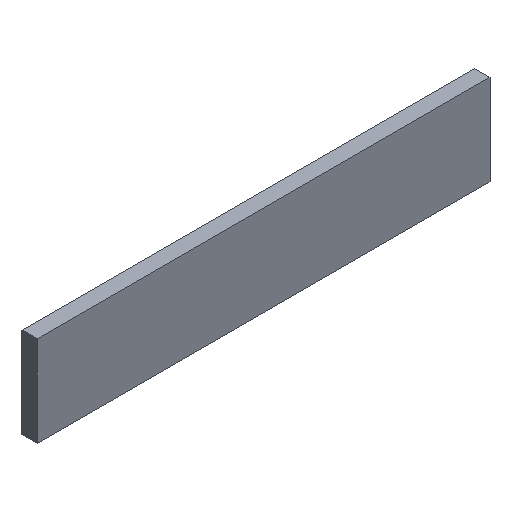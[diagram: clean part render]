
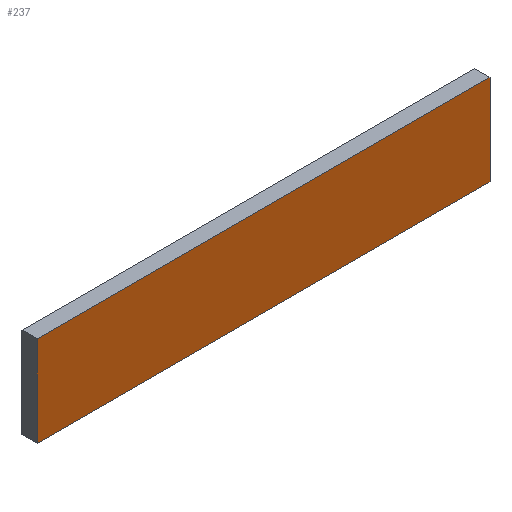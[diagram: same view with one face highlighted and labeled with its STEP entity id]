
A CAD part, isometric view. The second image highlights one B-rep face of the part: STEP entity #237.
In plain terms, the highlighted planar face has unit normal (0, -1, 0).
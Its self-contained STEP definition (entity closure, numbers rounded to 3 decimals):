
#21 = EDGE_CURVE('',#22,#24,#26,.T.);
#22 = VERTEX_POINT('',#23);
#23 = CARTESIAN_POINT('',(575.,437.5,1123.));
#24 = VERTEX_POINT('',#25);
#25 = CARTESIAN_POINT('',(575.,437.5,1153.));
#26 = SURFACE_CURVE('',#27,(#31,#43),.PCURVE_S1.);
#27 = LINE('',#28,#29);
#28 = CARTESIAN_POINT('',(575.,437.5,1123.));
#29 = VECTOR('',#30,1.);
#30 = DIRECTION('',(0.,0.,1.));
#31 = PCURVE('',#32,#37);
#32 = PLANE('',#33);
#33 = AXIS2_PLACEMENT_3D('',#34,#35,#36);
#34 = CARTESIAN_POINT('',(575.,437.5,1123.));
#35 = DIRECTION('',(1.,0.,-0.));
#36 = DIRECTION('',(0.,0.,1.));
#37 = DEFINITIONAL_REPRESENTATION('',(#38),#42);
#38 = LINE('',#39,#40);
#39 = CARTESIAN_POINT('',(0.,0.));
#40 = VECTOR('',#41,1.);
#41 = DIRECTION('',(1.,0.));
#42 = ( GEOMETRIC_REPRESENTATION_CONTEXT(2) 
PARAMETRIC_REPRESENTATION_CONTEXT() REPRESENTATION_CONTEXT('2D SPACE',''
  ) );
#43 = PCURVE('',#44,#49);
#44 = PLANE('',#45);
#45 = AXIS2_PLACEMENT_3D('',#46,#47,#48);
#46 = CARTESIAN_POINT('',(575.,437.5,1123.));
#47 = DIRECTION('',(-0.,1.,0.));
#48 = DIRECTION('',(0.,0.,1.));
#49 = DEFINITIONAL_REPRESENTATION('',(#50),#54);
#50 = LINE('',#51,#52);
#51 = CARTESIAN_POINT('',(0.,0.));
#52 = VECTOR('',#53,1.);
#53 = DIRECTION('',(1.,0.));
#54 = ( GEOMETRIC_REPRESENTATION_CONTEXT(2) 
PARAMETRIC_REPRESENTATION_CONTEXT() REPRESENTATION_CONTEXT('2D SPACE',''
  ) );
#72 = PLANE('',#73);
#73 = AXIS2_PLACEMENT_3D('',#74,#75,#76);
#74 = CARTESIAN_POINT('',(575.,437.5,1123.));
#75 = DIRECTION('',(0.,0.,1.));
#76 = DIRECTION('',(1.,0.,-0.));
#126 = PLANE('',#127);
#127 = AXIS2_PLACEMENT_3D('',#128,#129,#130);
#128 = CARTESIAN_POINT('',(575.,437.5,1153.));
#129 = DIRECTION('',(0.,0.,1.));
#130 = DIRECTION('',(1.,0.,-0.));
#141 = EDGE_CURVE('',#142,#144,#146,.T.);
#142 = VERTEX_POINT('',#143);
#143 = CARTESIAN_POINT('',(725.,437.5,1123.));
#144 = VERTEX_POINT('',#145);
#145 = CARTESIAN_POINT('',(725.,437.5,1153.));
#146 = SURFACE_CURVE('',#147,(#151,#163),.PCURVE_S1.);
#147 = LINE('',#148,#149);
#148 = CARTESIAN_POINT('',(725.,437.5,1123.));
#149 = VECTOR('',#150,1.);
#150 = DIRECTION('',(0.,0.,1.));
#151 = PCURVE('',#152,#157);
#152 = PLANE('',#153);
#153 = AXIS2_PLACEMENT_3D('',#154,#155,#156);
#154 = CARTESIAN_POINT('',(725.,437.5,1123.));
#155 = DIRECTION('',(1.,0.,-0.));
#156 = DIRECTION('',(0.,0.,1.));
#157 = DEFINITIONAL_REPRESENTATION('',(#158),#162);
#158 = LINE('',#159,#160);
#159 = CARTESIAN_POINT('',(0.,0.));
#160 = VECTOR('',#161,1.);
#161 = DIRECTION('',(1.,0.));
#162 = ( GEOMETRIC_REPRESENTATION_CONTEXT(2) 
PARAMETRIC_REPRESENTATION_CONTEXT() REPRESENTATION_CONTEXT('2D SPACE',''
  ) );
#163 = PCURVE('',#44,#164);
#164 = DEFINITIONAL_REPRESENTATION('',(#165),#169);
#165 = LINE('',#166,#167);
#166 = CARTESIAN_POINT('',(0.,150.));
#167 = VECTOR('',#168,1.);
#168 = DIRECTION('',(1.,0.));
#169 = ( GEOMETRIC_REPRESENTATION_CONTEXT(2) 
PARAMETRIC_REPRESENTATION_CONTEXT() REPRESENTATION_CONTEXT('2D SPACE',''
  ) );
#237 = ADVANCED_FACE('',(#238),#44,.F.);
#238 = FACE_BOUND('',#239,.F.);
#239 = EDGE_LOOP('',(#240,#261,#262,#283));
#240 = ORIENTED_EDGE('',*,*,#241,.F.);
#241 = EDGE_CURVE('',#22,#142,#242,.T.);
#242 = SURFACE_CURVE('',#243,(#247,#254),.PCURVE_S1.);
#243 = LINE('',#244,#245);
#244 = CARTESIAN_POINT('',(575.,437.5,1123.));
#245 = VECTOR('',#246,1.);
#246 = DIRECTION('',(1.,0.,-0.));
#247 = PCURVE('',#44,#248);
#248 = DEFINITIONAL_REPRESENTATION('',(#249),#253);
#249 = LINE('',#250,#251);
#250 = CARTESIAN_POINT('',(0.,0.));
#251 = VECTOR('',#252,1.);
#252 = DIRECTION('',(0.,1.));
#253 = ( GEOMETRIC_REPRESENTATION_CONTEXT(2) 
PARAMETRIC_REPRESENTATION_CONTEXT() REPRESENTATION_CONTEXT('2D SPACE',''
  ) );
#254 = PCURVE('',#72,#255);
#255 = DEFINITIONAL_REPRESENTATION('',(#256),#260);
#256 = LINE('',#257,#258);
#257 = CARTESIAN_POINT('',(0.,0.));
#258 = VECTOR('',#259,1.);
#259 = DIRECTION('',(1.,0.));
#260 = ( GEOMETRIC_REPRESENTATION_CONTEXT(2) 
PARAMETRIC_REPRESENTATION_CONTEXT() REPRESENTATION_CONTEXT('2D SPACE',''
  ) );
#261 = ORIENTED_EDGE('',*,*,#21,.T.);
#262 = ORIENTED_EDGE('',*,*,#263,.T.);
#263 = EDGE_CURVE('',#24,#144,#264,.T.);
#264 = SURFACE_CURVE('',#265,(#269,#276),.PCURVE_S1.);
#265 = LINE('',#266,#267);
#266 = CARTESIAN_POINT('',(575.,437.5,1153.));
#267 = VECTOR('',#268,1.);
#268 = DIRECTION('',(1.,0.,-0.));
#269 = PCURVE('',#44,#270);
#270 = DEFINITIONAL_REPRESENTATION('',(#271),#275);
#271 = LINE('',#272,#273);
#272 = CARTESIAN_POINT('',(30.,0.));
#273 = VECTOR('',#274,1.);
#274 = DIRECTION('',(0.,1.));
#275 = ( GEOMETRIC_REPRESENTATION_CONTEXT(2) 
PARAMETRIC_REPRESENTATION_CONTEXT() REPRESENTATION_CONTEXT('2D SPACE',''
  ) );
#276 = PCURVE('',#126,#277);
#277 = DEFINITIONAL_REPRESENTATION('',(#278),#282);
#278 = LINE('',#279,#280);
#279 = CARTESIAN_POINT('',(0.,0.));
#280 = VECTOR('',#281,1.);
#281 = DIRECTION('',(1.,0.));
#282 = ( GEOMETRIC_REPRESENTATION_CONTEXT(2) 
PARAMETRIC_REPRESENTATION_CONTEXT() REPRESENTATION_CONTEXT('2D SPACE',''
  ) );
#283 = ORIENTED_EDGE('',*,*,#141,.F.);
